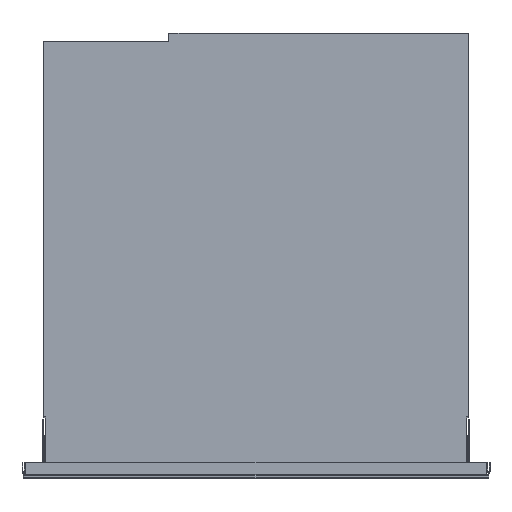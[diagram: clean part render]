
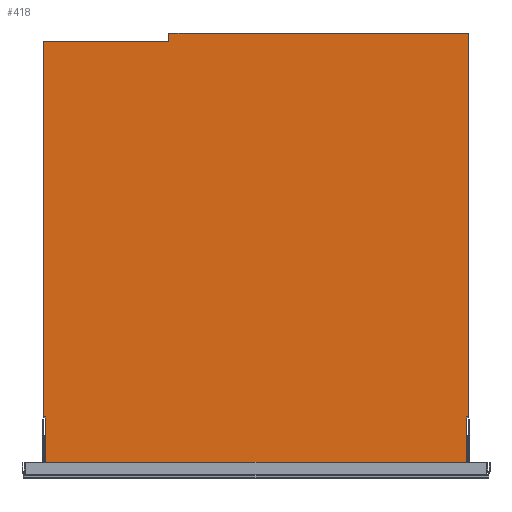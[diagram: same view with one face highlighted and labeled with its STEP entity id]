
A CAD part, top view. The second image highlights one B-rep face of the part: STEP entity #418.
In plain terms, the highlighted planar face has unit normal (0, 0, 1).
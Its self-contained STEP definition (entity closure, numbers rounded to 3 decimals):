
#418=ADVANCED_FACE('',(#714),#4441,.T.);
#714=FACE_OUTER_BOUND('',#1017,.T.);
#1017=EDGE_LOOP('',(#2348,#2349,#2350,#2351,#2352,#2353,#2354,#2355,#2356,
#2357));
#2348=ORIENTED_EDGE('',*,*,#3106,.T.);
#2349=ORIENTED_EDGE('',*,*,#3107,.T.);
#2350=ORIENTED_EDGE('',*,*,#3108,.T.);
#2351=ORIENTED_EDGE('',*,*,#3109,.T.);
#2352=ORIENTED_EDGE('',*,*,#3110,.T.);
#2353=ORIENTED_EDGE('',*,*,#3111,.T.);
#2354=ORIENTED_EDGE('',*,*,#3112,.T.);
#2355=ORIENTED_EDGE('',*,*,#3113,.T.);
#2356=ORIENTED_EDGE('',*,*,#3114,.T.);
#2357=ORIENTED_EDGE('',*,*,#3115,.T.);
#3106=EDGE_CURVE('',#4264,#4265,#3508,.T.);
#3107=EDGE_CURVE('',#4265,#4266,#3509,.T.);
#3108=EDGE_CURVE('',#4266,#4267,#3510,.T.);
#3109=EDGE_CURVE('',#4267,#4268,#3511,.T.);
#3110=EDGE_CURVE('',#4268,#4269,#3512,.T.);
#3111=EDGE_CURVE('',#4269,#4270,#3513,.T.);
#3112=EDGE_CURVE('',#4270,#4271,#3514,.T.);
#3113=EDGE_CURVE('',#4271,#4272,#3515,.T.);
#3114=EDGE_CURVE('',#4272,#4273,#3516,.T.);
#3115=EDGE_CURVE('',#4273,#4264,#3517,.T.);
#3508=B_SPLINE_CURVE_WITH_KNOTS('',1,(#11076,#11077),.UNSPECIFIED.,.F.,
 .F.,(2,2),(-160.,0.),.UNSPECIFIED.);
#3509=B_SPLINE_CURVE_WITH_KNOTS('',1,(#11078,#11079),.UNSPECIFIED.,.F.,
 .F.,(2,2),(-479.5,0.),.UNSPECIFIED.);
#3510=B_SPLINE_CURVE_WITH_KNOTS('',1,(#11080,#11081),.UNSPECIFIED.,.F.,
 .F.,(2,2),(-3.,0.),.UNSPECIFIED.);
#3511=B_SPLINE_CURVE_WITH_KNOTS('',1,(#11082,#11083),.UNSPECIFIED.,.F.,
 .F.,(2,2),(0.,58.),.UNSPECIFIED.);
#3512=B_SPLINE_CURVE_WITH_KNOTS('',1,(#11084,#11085),.UNSPECIFIED.,.F.,
 .F.,(2,2),(0.,536.),.UNSPECIFIED.);
#3513=B_SPLINE_CURVE_WITH_KNOTS('',1,(#11086,#11087),.UNSPECIFIED.,.F.,
 .F.,(2,2),(-58.,0.),.UNSPECIFIED.);
#3514=B_SPLINE_CURVE_WITH_KNOTS('',1,(#11088,#11089),.UNSPECIFIED.,.F.,
 .F.,(2,2),(0.,3.),.UNSPECIFIED.);
#3515=B_SPLINE_CURVE_WITH_KNOTS('',1,(#11090,#11091),.UNSPECIFIED.,.F.,
 .F.,(2,2),(0.,489.5),.UNSPECIFIED.);
#3516=B_SPLINE_CURVE_WITH_KNOTS('',1,(#11092,#11093),.UNSPECIFIED.,.F.,
 .F.,(2,2),(-382.,0.),.UNSPECIFIED.);
#3517=B_SPLINE_CURVE_WITH_KNOTS('',1,(#11094,#11095),.UNSPECIFIED.,.F.,
 .F.,(2,2),(-10.,0.),.UNSPECIFIED.);
#4264=VERTEX_POINT('',#11042);
#4265=VERTEX_POINT('',#11043);
#4266=VERTEX_POINT('',#11044);
#4267=VERTEX_POINT('',#11045);
#4268=VERTEX_POINT('',#11046);
#4269=VERTEX_POINT('',#11047);
#4270=VERTEX_POINT('',#11048);
#4271=VERTEX_POINT('',#11049);
#4272=VERTEX_POINT('',#11050);
#4273=VERTEX_POINT('',#11051);
#4441=PLANE('',#4757);
#4757=AXIS2_PLACEMENT_3D('',#11023,#4922,$);
#4922=DIRECTION('',(0.,0.,1.));
#11023=CARTESIAN_POINT('',(-325.212,-34.762,443.7));
#11042=CARTESIAN_POINT('',(-111.,557.5,443.7));
#11043=CARTESIAN_POINT('',(-271.,557.5,443.7));
#11044=CARTESIAN_POINT('',(-271.,78.,443.7));
#11045=CARTESIAN_POINT('',(-268.,78.,443.7));
#11046=CARTESIAN_POINT('',(-268.,20.,443.7));
#11047=CARTESIAN_POINT('',(268.,20.,443.7));
#11048=CARTESIAN_POINT('',(268.,78.,443.7));
#11049=CARTESIAN_POINT('',(271.,78.,443.7));
#11050=CARTESIAN_POINT('',(271.,567.5,443.7));
#11051=CARTESIAN_POINT('',(-111.,567.5,443.7));
#11076=CARTESIAN_POINT('',(-111.,557.5,443.7));
#11077=CARTESIAN_POINT('',(-271.,557.5,443.7));
#11078=CARTESIAN_POINT('',(-271.,557.5,443.7));
#11079=CARTESIAN_POINT('',(-271.,78.,443.7));
#11080=CARTESIAN_POINT('',(-271.,78.,443.7));
#11081=CARTESIAN_POINT('',(-268.,78.,443.7));
#11082=CARTESIAN_POINT('',(-268.,78.,443.7));
#11083=CARTESIAN_POINT('',(-268.,20.,443.7));
#11084=CARTESIAN_POINT('',(-268.,20.,443.7));
#11085=CARTESIAN_POINT('',(268.,20.,443.7));
#11086=CARTESIAN_POINT('',(268.,20.,443.7));
#11087=CARTESIAN_POINT('',(268.,78.,443.7));
#11088=CARTESIAN_POINT('',(268.,78.,443.7));
#11089=CARTESIAN_POINT('',(271.,78.,443.7));
#11090=CARTESIAN_POINT('',(271.,78.,443.7));
#11091=CARTESIAN_POINT('',(271.,567.5,443.7));
#11092=CARTESIAN_POINT('',(271.,567.5,443.7));
#11093=CARTESIAN_POINT('',(-111.,567.5,443.7));
#11094=CARTESIAN_POINT('',(-111.,567.5,443.7));
#11095=CARTESIAN_POINT('',(-111.,557.5,443.7));
